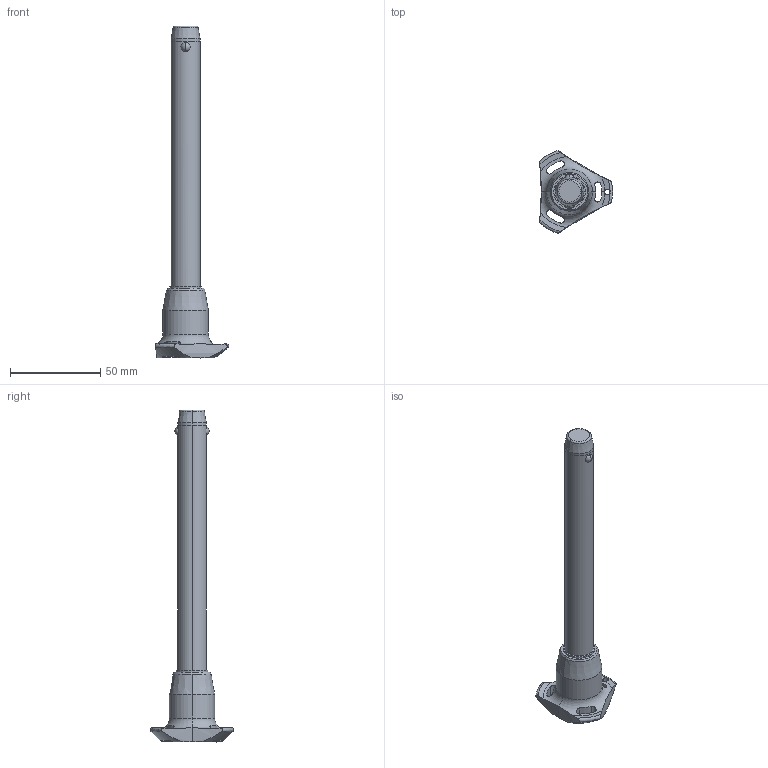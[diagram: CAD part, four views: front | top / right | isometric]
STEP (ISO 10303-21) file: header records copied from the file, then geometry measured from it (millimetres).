
FILE_DESCRIPTION (( 'STEP AP203' ), '1' );
FILE_NAME ('QR1716.M16-130-T.step', '2025-11-13T10:41:37', ( '' ), ( '' ), 'SwSTEP 2.0', 'SolidWorks 2019', '' );
FILE_SCHEMA (( 'CONFIG_CONTROL_DESIGN' ));
Length unit declared in the file: millimetre
Products named in the file (1): QR1716.M16-130-T
Bounding box: 40.5 x 45.88 x 183.7 mm (x, y, z)
Volume: 49867.6 mm3; surface area: 13127.5 mm2
Topology: 1 solids, 1 shells, 68 faces, 183 edges, 116 vertices
Faces by surface type: cylinder 32, cone 14, torus 11, sphere 6, plane 5
Entity records: 2923 total; most frequent: CARTESIAN_POINT 1170, ORIENTED_EDGE 366, DIRECTION 346, EDGE_CURVE 183, AXIS2_PLACEMENT_3D 154, VERTEX_POINT 116, CIRCLE 85, EDGE_LOOP 75
